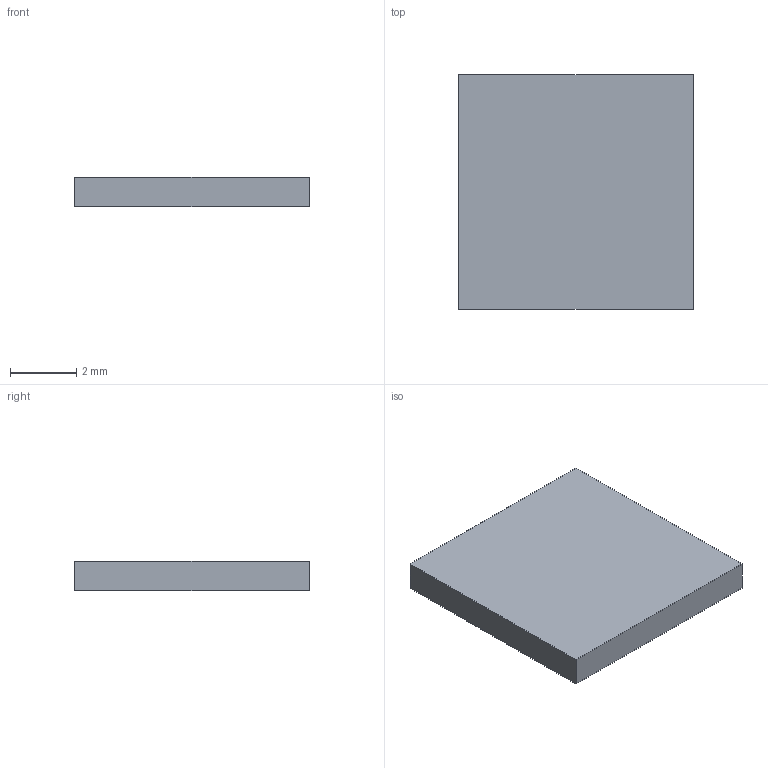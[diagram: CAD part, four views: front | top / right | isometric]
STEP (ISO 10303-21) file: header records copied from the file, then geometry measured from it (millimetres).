
FILE_DESCRIPTION(('Open CASCADE Model'),'2;1');
FILE_NAME('Open CASCADE Shape Model','2026-09-17T14:57:39',('Author'),( 'Open CASCADE'),'Open CASCADE STEP processor 7.8','Open CASCADE 7.8' ,'Unknown');
FILE_SCHEMA(('AUTOMOTIVE_DESIGN { 1 0 10303 214 1 1 1 1 }'));
Length unit declared in the file: millimetre
Products named in the file (1): Open CASCADE STEP translator 7.8 36
Bounding box: 7.1 x 7.1 x 0.9 mm (x, y, z)
Volume: 45.4 mm3; surface area: 126.4 mm2
Topology: 1 solids, 1 shells, 6 faces, 12 edges, 8 vertices
Faces by surface type: plane 6
Entity records: 322 total; most frequent: CARTESIAN_POINT 51, DIRECTION 50, LINE 36, VECTOR 36, ORIENTED_EDGE 24, PCURVE 24, DEFINITIONAL_REPRESENTATION 24, EDGE_CURVE 12
